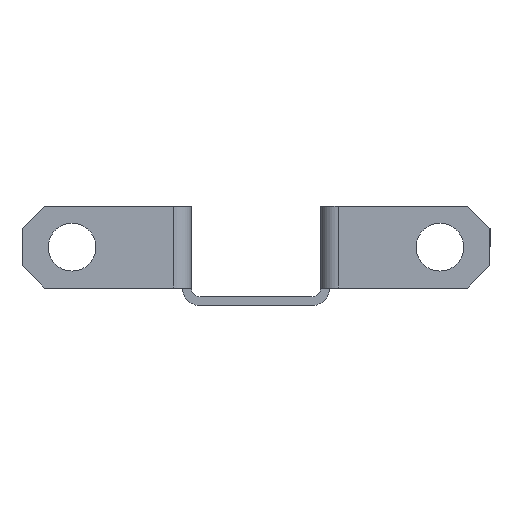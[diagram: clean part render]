
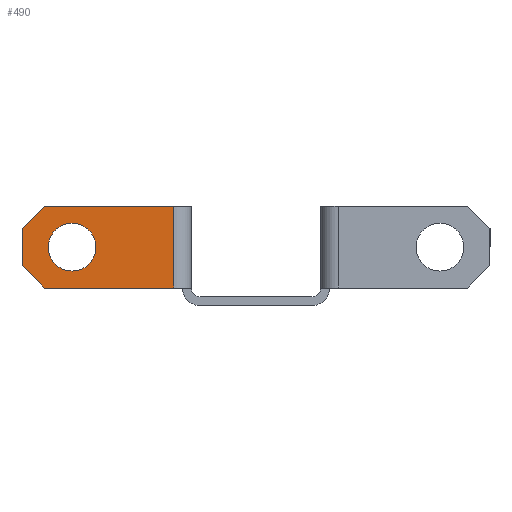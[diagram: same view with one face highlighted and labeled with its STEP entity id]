
A CAD part, left-side view. The second image highlights one B-rep face of the part: STEP entity #490.
In plain terms, the highlighted planar face has unit normal (-1, 0, 0).
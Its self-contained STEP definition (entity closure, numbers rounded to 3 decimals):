
#124 = VERTEX_POINT ( 'NONE', #2508 ) ;
#284 = ORIENTED_EDGE ( 'NONE', *, *, #1363, .F. ) ;
#303 = CARTESIAN_POINT ( 'NONE',  ( -242.5, 0., 13.5 ) ) ;
#490 = ADVANCED_FACE ( 'NONE', ( #5134, #2060 ), #2868, .F. ) ;
#596 = CARTESIAN_POINT ( 'NONE',  ( -242.5, 28.8, 2.4 ) ) ;
#610 = VECTOR ( 'NONE', #4495, 1000. ) ;
#704 = VERTEX_POINT ( 'NONE', #5954 ) ;
#721 = AXIS2_PLACEMENT_3D ( 'NONE', #3919, #2939, #2565 ) ;
#1199 = LINE ( 'NONE', #303, #5685 ) ;
#1218 = ORIENTED_EDGE ( 'NONE', *, *, #4552, .T. ) ;
#1363 = EDGE_CURVE ( 'NONE', #5332, #5144, #4305, .T. ) ;
#1478 = CARTESIAN_POINT ( 'NONE',  ( -242.5, 31.8, 10.5 ) ) ;
#1567 = LINE ( 'NONE', #5124, #5611 ) ;
#1604 = DIRECTION ( 'NONE',  ( -1., 0., 0. ) ) ;
#1675 = CARTESIAN_POINT ( 'NONE',  ( -242.5, 21.75, 7.95 ) ) ;
#1733 = VECTOR ( 'NONE', #5878, 1000. ) ;
#1738 = DIRECTION ( 'NONE',  ( 0., 1., 0. ) ) ;
#1775 = EDGE_CURVE ( 'NONE', #704, #4310, #2834, .T. ) ;
#1845 = EDGE_CURVE ( 'NONE', #2823, #4516, #4517, .T. ) ;
#1858 = ORIENTED_EDGE ( 'NONE', *, *, #1775, .T. ) ;
#1898 = EDGE_CURVE ( 'NONE', #5632, #124, #3131, .T. ) ;
#1995 = CARTESIAN_POINT ( 'NONE',  ( -242.5, 31.8, 5.4 ) ) ;
#2020 = CARTESIAN_POINT ( 'NONE',  ( -242.5, 0., 0. ) ) ;
#2038 = CARTESIAN_POINT ( 'NONE',  ( -242.5, 28.25, 7.95 ) ) ;
#2060 = FACE_OUTER_BOUND ( 'NONE', #3106, .T. ) ;
#2508 = CARTESIAN_POINT ( 'NONE',  ( -242.5, 28.8, 2.4 ) ) ;
#2561 = ORIENTED_EDGE ( 'NONE', *, *, #5667, .F. ) ;
#2565 = DIRECTION ( 'NONE',  ( 0., -1., 0. ) ) ;
#2588 = DIRECTION ( 'NONE',  ( 0., 0., -1. ) ) ;
#2644 = AXIS2_PLACEMENT_3D ( 'NONE', #3080, #1604, #5885 ) ;
#2659 = AXIS2_PLACEMENT_3D ( 'NONE', #2020, #5731, #4772 ) ;
#2663 = CARTESIAN_POINT ( 'NONE',  ( -242.5, 11.2, 13.5 ) ) ;
#2744 = DIRECTION ( 'NONE',  ( 0., -1., 0. ) ) ;
#2802 = CIRCLE ( 'NONE', #2644, 3.25 ) ;
#2823 = VERTEX_POINT ( 'NONE', #2038 ) ;
#2834 = LINE ( 'NONE', #1478, #3427 ) ;
#2868 = PLANE ( 'NONE',  #2659 ) ;
#2911 = CARTESIAN_POINT ( 'NONE',  ( -242.5, 31.8, 10.5 ) ) ;
#2939 = DIRECTION ( 'NONE',  ( -1., 0., 0. ) ) ;
#3080 = CARTESIAN_POINT ( 'NONE',  ( -242.5, 25., 7.95 ) ) ;
#3106 = EDGE_LOOP ( 'NONE', ( #3134, #1858, #1218, #4692, #4945, #284 ) ) ;
#3131 = LINE ( 'NONE', #596, #1733 ) ;
#3134 = ORIENTED_EDGE ( 'NONE', *, *, #4476, .T. ) ;
#3427 = VECTOR ( 'NONE', #3884, 1000. ) ;
#3884 = DIRECTION ( 'NONE',  ( 0., 0.707, -0.707 ) ) ;
#3919 = CARTESIAN_POINT ( 'NONE',  ( -242.5, 25., 7.95 ) ) ;
#4032 = CARTESIAN_POINT ( 'NONE',  ( -242.5, 31.8, 0. ) ) ;
#4305 = LINE ( 'NONE', #5382, #5852 ) ;
#4310 = VERTEX_POINT ( 'NONE', #2911 ) ;
#4476 = EDGE_CURVE ( 'NONE', #5332, #704, #1199, .T. ) ;
#4495 = DIRECTION ( 'NONE',  ( 0., 0., -1. ) ) ;
#4496 = LINE ( 'NONE', #4032, #610 ) ;
#4512 = CARTESIAN_POINT ( 'NONE',  ( -242.5, 11.2, 2.4 ) ) ;
#4516 = VERTEX_POINT ( 'NONE', #1675 ) ;
#4517 = CIRCLE ( 'NONE', #721, 3.25 ) ;
#4552 = EDGE_CURVE ( 'NONE', #4310, #5632, #4496, .T. ) ;
#4618 = EDGE_CURVE ( 'NONE', #124, #5144, #1567, .T. ) ;
#4692 = ORIENTED_EDGE ( 'NONE', *, *, #1898, .T. ) ;
#4772 = DIRECTION ( 'NONE',  ( 0., 1., 0. ) ) ;
#4945 = ORIENTED_EDGE ( 'NONE', *, *, #4618, .T. ) ;
#5124 = CARTESIAN_POINT ( 'NONE',  ( -242.5, 0., 2.4 ) ) ;
#5134 = FACE_BOUND ( 'NONE', #5512, .T. ) ;
#5144 = VERTEX_POINT ( 'NONE', #4512 ) ;
#5332 = VERTEX_POINT ( 'NONE', #2663 ) ;
#5382 = CARTESIAN_POINT ( 'NONE',  ( -242.5, 11.2, 2.4 ) ) ;
#5512 = EDGE_LOOP ( 'NONE', ( #2561, #5589 ) ) ;
#5589 = ORIENTED_EDGE ( 'NONE', *, *, #1845, .F. ) ;
#5611 = VECTOR ( 'NONE', #2744, 1000. ) ;
#5632 = VERTEX_POINT ( 'NONE', #1995 ) ;
#5667 = EDGE_CURVE ( 'NONE', #4516, #2823, #2802, .T. ) ;
#5685 = VECTOR ( 'NONE', #1738, 1000. ) ;
#5731 = DIRECTION ( 'NONE',  ( 1., 0., 0. ) ) ;
#5852 = VECTOR ( 'NONE', #2588, 1000. ) ;
#5878 = DIRECTION ( 'NONE',  ( 0., -0.707, -0.707 ) ) ;
#5885 = DIRECTION ( 'NONE',  ( 0., -1., 0. ) ) ;
#5954 = CARTESIAN_POINT ( 'NONE',  ( -242.5, 28.8, 13.5 ) ) ;
